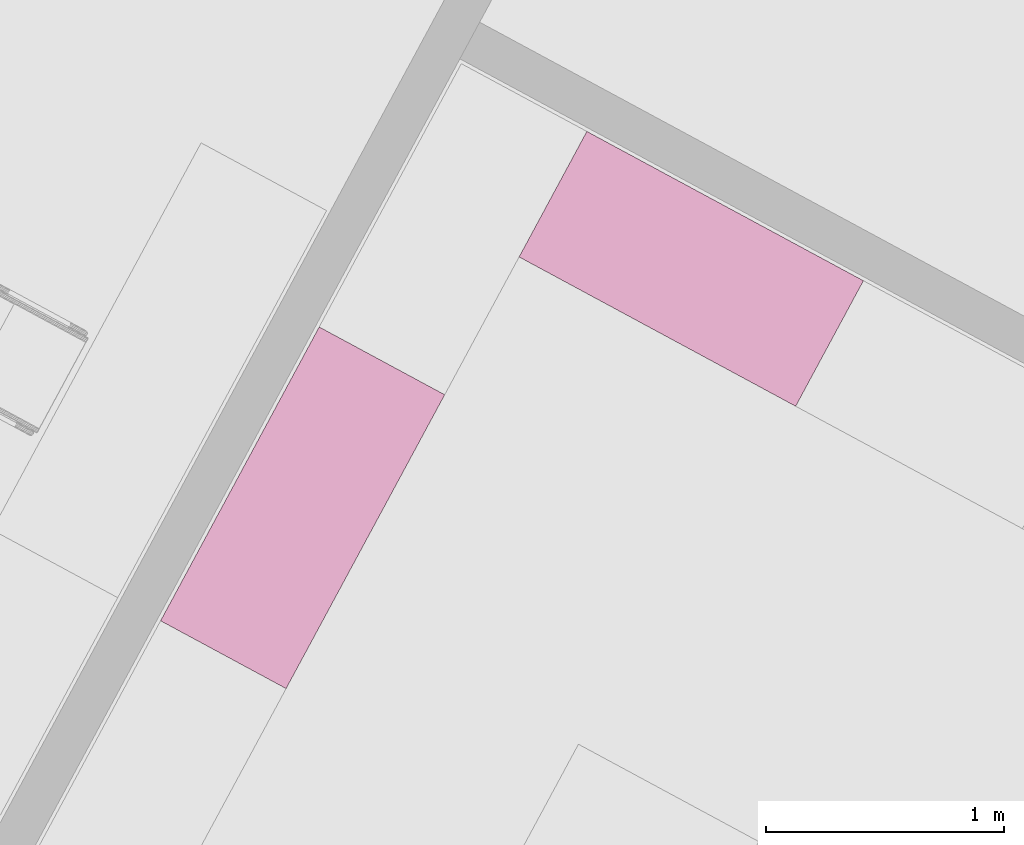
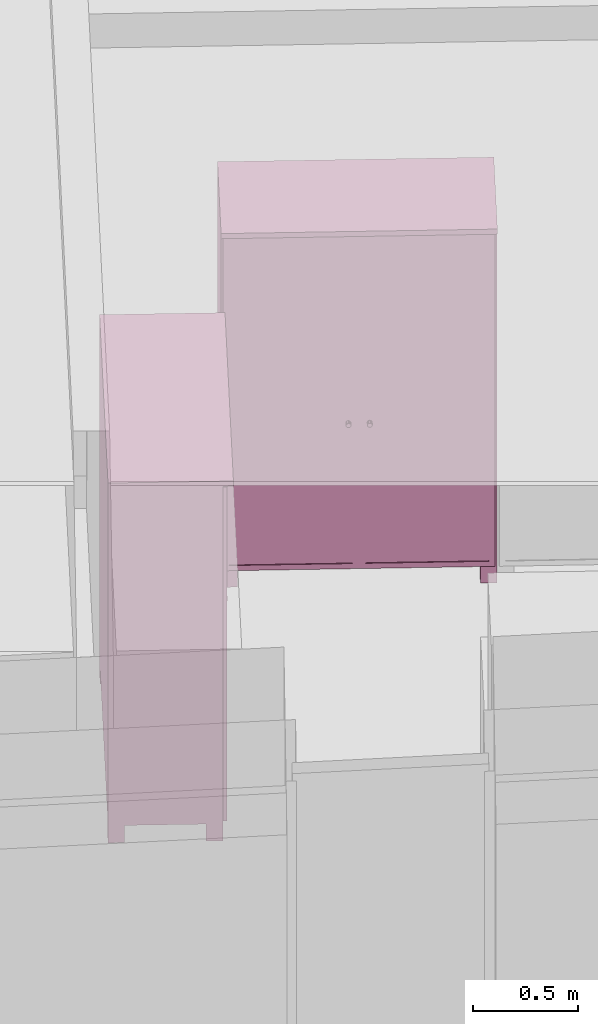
# One storey, part 30 of 48: 2 furnishings.
"""IFC2X3 building model written with IfcOpenShell, lengths in metres."""

from ifc_helpers import new_model, entity, si_unit, converted_unit, derived_unit, money_unit, direction, frame, origin_with_axes, place, context, subcontext, project, spatial, faceted_brep, type_object, element, save


model = new_model("IFC2X3")

# Units and contexts
model_context = context("Model", 3, precision=1e-05, world=origin_with_axes(), true_north=direction((0.0, 1.0)))
body_context = subcontext(model_context, "Body", "Model", "MODEL_VIEW")
ifc_project = project(units=[si_unit("LENGTHUNIT", "METRE"), si_unit("AREAUNIT", "SQUARE_METRE"), si_unit("VOLUMEUNIT", "CUBIC_METRE"), converted_unit("PLANEANGLEUNIT", "DEGREE", entity("IfcPlaneAngleMeasure", 0.0174532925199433), si_unit("PLANEANGLEUNIT", "RADIAN"), dimensions=[0, 0, 0, 0, 0, 0, 0]), money_unit("EUR"), converted_unit("TIMEUNIT", "Year", entity("IfcTimeMeasure", 31556926.0), si_unit("TIMEUNIT", "SECOND"), dimensions=[0, 0, 1, 0, 0, 0, 0]), si_unit("MASSUNIT", "GRAM", prefix="KILO"), si_unit("THERMODYNAMICTEMPERATUREUNIT", "DEGREE_CELSIUS"), si_unit("LUMINOUSINTENSITYUNIT", "LUMEN"), si_unit("ENERGYUNIT", "JOULE", prefix="MEGA"), derived_unit("THERMALCONDUCTANCEUNIT", [(si_unit("POWERUNIT", "WATT"), 1), (si_unit("LENGTHUNIT", "METRE"), -1), (si_unit("THERMODYNAMICTEMPERATUREUNIT", "KELVIN"), -1)]), derived_unit("SPECIFICHEATCAPACITYUNIT", [(si_unit("ENERGYUNIT", "JOULE"), 1), (si_unit("MASSUNIT", "GRAM", prefix="KILO"), -1), (si_unit("THERMODYNAMICTEMPERATUREUNIT", "KELVIN"), -1)]), derived_unit("MASSDENSITYUNIT", [(si_unit("MASSUNIT", "GRAM", prefix="KILO"), 1), (si_unit("VOLUMEUNIT", "CUBIC_METRE"), -1)])], contexts=[model_context])

# Site, building, storey
site_placement = place(None, frame((-3.949935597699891, 1.740105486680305, 0.0), z_axis=(0.0, 0.0, 1.0), x_axis=(0.8799804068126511, -0.475009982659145, 0.0)))
site = spatial("IfcSite", under=ifc_project, at=site_placement, Name="Gelände", CompositionType="ELEMENT")
building_placement = place(site_placement, origin_with_axes())
building = spatial("IfcBuilding", under=site, at=building_placement, Name="Gebäude", CompositionType="ELEMENT")
storey_placement = place(building_placement, frame((0.0, 0.0, 4.55), z_axis=(0.0, 0.0, 1.0), x_axis=(1.0, 0.0, 0.0)))
storey = spatial("IfcBuildingStorey", under=building, at=storey_placement, Name="Staffelgeschoss", CompositionType="ELEMENT", Elevation=4.55)

# Furnishings
furnishing_element_type = type_object("IfcFurnishingElementType", Name="Kleiderschrank 22")
furnishing_1_placement = place(storey_placement, frame((12.22319561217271, 4.444526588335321, 0.0), z_axis=(0.0, 0.0, 1.0), x_axis=(0.0, 1.0, 0.0)))
element("IfcFurnishingElement", 1, at=furnishing_1_placement, inside=storey, type_object=furnishing_element_type, Name="Objekt-0066", context=body_context, shape_type="Brep", body=[
    faceted_brep([(-0.02000000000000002, 0.6000000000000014, 0.12), (-0.02000000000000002, 0.6000000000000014, 2.05), (-0.02000000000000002, 0.5800000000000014, 2.05), (-0.02000000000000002, 0.5800000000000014, 0.12), (-1.384539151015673, 0.6000000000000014, 0.12), (-1.384539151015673, 0.6000000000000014, 2.05), (-1.384539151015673, 0.5800000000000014, 2.05), (-1.384539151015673, 0.5800000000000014, 0.12)], [[[0, 1, 2, 3]], [[4, 5, 1, 0]], [[1, 5, 6, 2]], [[3, 2, 6, 7]], [[0, 3, 7, 4]], [[7, 6, 5, 4]]]),
    faceted_brep([(-1.404539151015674, 0.05000000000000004, 0.1), (-1.404539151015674, 0.6000000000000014, 0.1), (-1.384539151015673, 0.6000000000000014, 0.1), (-1.384539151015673, 0.05000000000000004, 0.1), (-1.404539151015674, 0.05000000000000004, 2.07), (-1.404539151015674, 0.6000000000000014, 2.07), (-1.384539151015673, 0.6000000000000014, 2.07), (-1.384539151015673, 0.05000000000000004, 2.07)], [[[0, 1, 2, 3]], [[0, 4, 5, 1]], [[1, 5, 6, 2]], [[2, 6, 7, 3]], [[3, 7, 4, 0]], [[7, 6, 5, 4]]]),
    faceted_brep([(-0.02, 0.05000000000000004, 0.1), (-0.02, 0.6000000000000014, 0.1), (0.0, 0.6000000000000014, 0.1), (0.0, 0.05000000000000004, 0.1), (-0.02, 0.05000000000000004, 2.07), (-0.02, 0.6000000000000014, 2.07), (0.0, 0.6000000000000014, 2.07), (0.0, 0.05000000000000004, 2.07)], [[[0, 1, 2, 3]], [[0, 4, 5, 1]], [[1, 5, 6, 2]], [[2, 6, 7, 3]], [[3, 7, 4, 0]], [[7, 6, 5, 4]]]),
    faceted_brep([(-1.384539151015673, 0.05000000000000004, 0.1), (-1.384539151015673, 0.6000000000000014, 0.1), (-0.02000000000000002, 0.6000000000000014, 0.1), (-0.02000000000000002, 0.05000000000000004, 0.1), (-1.384539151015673, 0.05000000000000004, 0.12), (-1.384539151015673, 0.6000000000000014, 0.12), (-0.02000000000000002, 0.6000000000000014, 0.12), (-0.02000000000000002, 0.05000000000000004, 0.12)], [[[0, 1, 2, 3]], [[0, 4, 5, 1]], [[1, 5, 6, 2]], [[2, 6, 7, 3]], [[3, 7, 4, 0]], [[7, 6, 5, 4]]]),
    faceted_brep([(-1.384539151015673, 0.05000000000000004, 2.05), (-1.384539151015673, 0.6000000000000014, 2.05), (-0.02000000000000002, 0.6000000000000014, 2.05), (-0.02000000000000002, 0.05000000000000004, 2.05), (-1.384539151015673, 0.05000000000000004, 2.07), (-1.384539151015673, 0.6000000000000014, 2.07), (-0.02000000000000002, 0.6000000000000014, 2.07), (-0.02000000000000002, 0.05000000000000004, 2.07)], [[[0, 1, 2, 3]], [[0, 4, 5, 1]], [[1, 5, 6, 2]], [[2, 6, 7, 3]], [[3, 7, 4, 0]], [[7, 6, 5, 4]]]),
    faceted_brep([(-1.404539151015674, 0.6000000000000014, 2.07), (-1.404539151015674, 0.0, 2.07), (-1.404539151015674, 0.0, 2.1), (-1.404539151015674, 0.6000000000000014, 2.1), (0.0, 0.6000000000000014, 2.07), (0.0, 0.0, 2.07), (0.0, 0.0, 2.1), (0.0, 0.6000000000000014, 2.1)], [[[0, 1, 2, 3]], [[0, 4, 5, 1]], [[1, 5, 6, 2]], [[3, 2, 6, 7]], [[4, 0, 3, 7]], [[5, 4, 7, 6]]]),
    faceted_brep([(-0.08000000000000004, 0.5200000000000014, 0.0), (-0.08000000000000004, 0.5200000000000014, 0.1), (-0.08000000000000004, 0.6000000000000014, 0.1), (-0.08000000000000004, 0.6000000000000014, 0.0), (0.0, 0.5200000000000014, 0.0), (0.0, 0.5200000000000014, 0.1), (0.0, 0.6000000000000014, 0.1), (0.0, 0.6000000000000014, 0.0)], [[[0, 1, 2, 3]], [[4, 5, 1, 0]], [[1, 5, 6, 2]], [[3, 2, 6, 7]], [[0, 3, 7, 4]], [[7, 6, 5, 4]]]),
    faceted_brep([(-1.404539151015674, 0.5200000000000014, 0.0), (-1.404539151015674, 0.5200000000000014, 0.1), (-1.404539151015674, 0.6000000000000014, 0.1), (-1.404539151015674, 0.6000000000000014, 0.0), (-1.324539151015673, 0.5200000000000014, 0.0), (-1.324539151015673, 0.5200000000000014, 0.1), (-1.324539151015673, 0.6000000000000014, 0.1), (-1.324539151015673, 0.6000000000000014, 0.0)], [[[0, 1, 2, 3]], [[4, 5, 1, 0]], [[1, 5, 6, 2]], [[3, 2, 6, 7]], [[0, 3, 7, 4]], [[7, 6, 5, 4]]]),
    faceted_brep([(-0.08000000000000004, 0.05000000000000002, 0.0), (-0.08000000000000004, 0.05000000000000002, 0.1), (-0.08000000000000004, 0.13, 0.1), (-0.08000000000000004, 0.13, 0.0), (0.0, 0.05000000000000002, 0.0), (0.0, 0.05000000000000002, 0.1), (0.0, 0.13, 0.1), (0.0, 0.13, 0.0)], [[[0, 1, 2, 3]], [[4, 5, 1, 0]], [[1, 5, 6, 2]], [[3, 2, 6, 7]], [[0, 3, 7, 4]], [[7, 6, 5, 4]]]),
    faceted_brep([(-1.404539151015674, 0.05000000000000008, 0.0), (-1.404539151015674, 0.05000000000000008, 0.1), (-1.404539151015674, 0.1300000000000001, 0.1), (-1.404539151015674, 0.1300000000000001, 0.0), (-1.324539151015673, 0.05000000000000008, 0.0), (-1.324539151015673, 0.05000000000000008, 0.1), (-1.324539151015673, 0.1300000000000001, 0.1), (-1.324539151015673, 0.1300000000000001, 0.0)], [[[0, 1, 2, 3]], [[4, 5, 1, 0]], [[1, 5, 6, 2]], [[3, 2, 6, 7]], [[0, 3, 7, 4]], [[7, 6, 5, 4]]]),
    faceted_brep([(-0.7017695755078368, 0.05, 0.1104999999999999), (-0.7017695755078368, 0.03, 0.1104999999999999), (-0.7017695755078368, 0.03000000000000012, 2.0595), (-0.7017695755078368, 0.05000000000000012, 2.0595), (-0.6717695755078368, 0.05, 0.1405), (-0.6717695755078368, 0.03000000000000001, 0.1405), (-0.6717695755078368, 0.03000000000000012, 2.0295), (-0.6717695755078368, 0.05000000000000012, 2.0295)], [[[0, 1, 2, 3]], [[4, 5, 1, 0]], [[1, 5, 6, 2]], [[3, 2, 6, 7]], [[0, 3, 7, 4]], [[7, 6, 5, 4]]]),
    faceted_brep([(-0.04049999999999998, 0.05, 0.1405), (-0.04049999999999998, 0.03000000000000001, 0.1405), (-0.04049999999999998, 0.03000000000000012, 2.0295), (-0.04049999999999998, 0.05000000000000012, 2.0295), (-0.01050000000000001, 0.05, 0.1104999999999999), (-0.01050000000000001, 0.03, 0.1104999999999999), (-0.01050000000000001, 0.03000000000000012, 2.0595), (-0.01050000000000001, 0.05000000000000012, 2.0595)], [[[0, 1, 2, 3]], [[4, 5, 1, 0]], [[1, 5, 6, 2]], [[3, 2, 6, 7]], [[0, 3, 7, 4]], [[7, 6, 5, 4]]]),
    faceted_brep([(-0.01050000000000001, 0.05, 0.1104999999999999), (-0.01050000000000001, 0.03, 0.1104999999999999), (-0.7017695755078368, 0.03, 0.1104999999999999), (-0.7017695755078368, 0.05, 0.1104999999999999), (-0.04049999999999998, 0.05, 0.1405), (-0.04049999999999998, 0.03000000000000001, 0.1405), (-0.6717695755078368, 0.03000000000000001, 0.1405), (-0.6717695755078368, 0.05, 0.1405)], [[[0, 1, 2, 3]], [[4, 5, 1, 0]], [[1, 5, 6, 2]], [[3, 2, 6, 7]], [[0, 3, 7, 4]], [[7, 6, 5, 4]]]),
    faceted_brep([(-0.04049999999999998, 0.05000000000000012, 2.0295), (-0.04049999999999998, 0.03000000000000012, 2.0295), (-0.6717695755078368, 0.03000000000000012, 2.0295), (-0.6717695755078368, 0.05000000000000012, 2.0295), (-0.01050000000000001, 0.05000000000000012, 2.0595), (-0.01050000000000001, 0.03000000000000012, 2.0595), (-0.7017695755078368, 0.03000000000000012, 2.0595), (-0.7017695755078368, 0.05000000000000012, 2.0595)], [[[0, 1, 2, 3]], [[4, 5, 1, 0]], [[1, 5, 6, 2]], [[3, 2, 6, 7]], [[0, 3, 7, 4]], [[7, 6, 5, 4]]]),
    faceted_brep([(-0.6717695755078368, 0.04500000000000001, 0.1405), (-0.6717695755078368, 0.035, 0.1405), (-0.6717695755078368, 0.03500000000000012, 2.0295), (-0.6717695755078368, 0.04500000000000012, 2.0295), (-0.04049999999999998, 0.04500000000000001, 0.1405), (-0.04049999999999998, 0.035, 0.1405), (-0.04049999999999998, 0.03500000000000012, 2.0295), (-0.04049999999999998, 0.04500000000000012, 2.0295)], [[[0, 1, 2, 3]], [[4, 5, 1, 0]], [[1, 5, 6, 2]], [[3, 2, 6, 7]], [[0, 3, 7, 4]], [[7, 6, 5, 4]]]),
    faceted_brep([(-0.6616618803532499, 0.035, 0.954), (-0.6632695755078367, 0.035, 0.96), (-0.66166188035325, 0.035, 0.966), (-0.6572695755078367, 0.035, 0.9703923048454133), (-0.6512695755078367, 0.035, 0.972), (-0.6452695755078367, 0.035, 0.9703923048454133), (-0.6408772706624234, 0.035, 0.966), (-0.6392695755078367, 0.035, 0.96), (-0.6408772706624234, 0.035, 0.954), (-0.6452695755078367, 0.035, 0.9496076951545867), (-0.6512695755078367, 0.035, 0.948), (-0.6572695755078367, 0.035, 0.9496076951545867), (-0.6616618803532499, 0.01, 0.954), (-0.6632695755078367, 0.01, 0.96), (-0.66166188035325, 0.01, 0.966), (-0.6572695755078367, 0.01, 0.9703923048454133), (-0.6512695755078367, 0.01, 0.972), (-0.6452695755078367, 0.01, 0.9703923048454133), (-0.6408772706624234, 0.01, 0.966), (-0.6392695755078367, 0.01, 0.96), (-0.6408772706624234, 0.01, 0.954), (-0.6452695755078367, 0.01, 0.9496076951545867), (-0.6512695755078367, 0.01, 0.948), (-0.6572695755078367, 0.01, 0.9496076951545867)], [[[0, 1, 2, 3, 4, 5, 6, 7, 8, 9, 10, 11]], [[0, 12, 13, 1]], [[1, 13, 14, 2]], [[2, 14, 15, 3]], [[3, 15, 16, 4]], [[4, 16, 17, 5]], [[5, 17, 18, 6]], [[6, 18, 19, 7]], [[7, 19, 20, 8]], [[8, 20, 21, 9]], [[9, 21, 22, 10]], [[10, 22, 23, 11]], [[11, 23, 12, 0]], [[12, 23, 22, 21, 20, 19, 18, 17, 16, 15, 14, 13]]]),
    faceted_brep([(-1.395039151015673, 0.05, 0.1104999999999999), (-1.395039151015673, 0.03, 0.1104999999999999), (-1.395039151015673, 0.03000000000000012, 2.0595), (-1.395039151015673, 0.05000000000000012, 2.0595), (-1.365039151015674, 0.05, 0.1405), (-1.365039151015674, 0.03000000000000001, 0.1405), (-1.365039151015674, 0.03000000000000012, 2.0295), (-1.365039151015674, 0.05000000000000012, 2.0295)], [[[0, 1, 2, 3]], [[4, 5, 1, 0]], [[1, 5, 6, 2]], [[3, 2, 6, 7]], [[0, 3, 7, 4]], [[7, 6, 5, 4]]]),
    faceted_brep([(-0.7337695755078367, 0.05, 0.1405), (-0.7337695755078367, 0.03000000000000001, 0.1405), (-0.7337695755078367, 0.03000000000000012, 2.0295), (-0.7337695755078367, 0.05000000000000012, 2.0295), (-0.7037695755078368, 0.05, 0.1104999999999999), (-0.7037695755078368, 0.03, 0.1104999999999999), (-0.7037695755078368, 0.03000000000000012, 2.0595), (-0.7037695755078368, 0.05000000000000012, 2.0595)], [[[0, 1, 2, 3]], [[4, 5, 1, 0]], [[1, 5, 6, 2]], [[3, 2, 6, 7]], [[0, 3, 7, 4]], [[7, 6, 5, 4]]]),
    faceted_brep([(-0.7037695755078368, 0.05, 0.1104999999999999), (-0.7037695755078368, 0.03, 0.1104999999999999), (-1.395039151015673, 0.03, 0.1104999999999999), (-1.395039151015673, 0.05, 0.1104999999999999), (-0.7337695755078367, 0.05, 0.1405), (-0.7337695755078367, 0.03000000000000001, 0.1405), (-1.365039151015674, 0.03000000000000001, 0.1405), (-1.365039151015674, 0.05, 0.1405)], [[[0, 1, 2, 3]], [[4, 5, 1, 0]], [[1, 5, 6, 2]], [[3, 2, 6, 7]], [[0, 3, 7, 4]], [[7, 6, 5, 4]]]),
    faceted_brep([(-0.7337695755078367, 0.05000000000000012, 2.0295), (-0.7337695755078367, 0.03000000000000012, 2.0295), (-1.365039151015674, 0.03000000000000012, 2.0295), (-1.365039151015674, 0.05000000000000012, 2.0295), (-0.7037695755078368, 0.05000000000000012, 2.0595), (-0.7037695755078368, 0.03000000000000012, 2.0595), (-1.395039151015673, 0.03000000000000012, 2.0595), (-1.395039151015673, 0.05000000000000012, 2.0595)], [[[0, 1, 2, 3]], [[4, 5, 1, 0]], [[1, 5, 6, 2]], [[3, 2, 6, 7]], [[0, 3, 7, 4]], [[7, 6, 5, 4]]]),
    faceted_brep([(-1.365039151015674, 0.04500000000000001, 0.1405), (-1.365039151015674, 0.04000000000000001, 0.1405), (-1.365039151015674, 0.04000000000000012, 2.0295), (-1.365039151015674, 0.04500000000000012, 2.0295), (-0.7337695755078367, 0.04500000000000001, 0.1405), (-0.7337695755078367, 0.04000000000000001, 0.1405), (-0.7337695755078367, 0.04000000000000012, 2.0295), (-0.7337695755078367, 0.04500000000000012, 2.0295)], [[[0, 1, 2, 3]], [[4, 5, 1, 0]], [[1, 5, 6, 2]], [[3, 2, 6, 7]], [[0, 3, 7, 4]], [[7, 6, 5, 4]]]),
    faceted_brep([(-1.365039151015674, 0.04000000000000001, 0.1405), (-1.365039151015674, 0.03500000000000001, 0.1405), (-1.365039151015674, 0.03500000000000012, 2.0295), (-1.365039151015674, 0.04000000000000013, 2.0295), (-0.7337695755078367, 0.04000000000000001, 0.1405), (-0.7337695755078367, 0.03500000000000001, 0.1405), (-0.7337695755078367, 0.03500000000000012, 2.0295), (-0.7337695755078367, 0.04000000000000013, 2.0295)], [[[0, 1, 2, 3]], [[4, 5, 1, 0]], [[1, 5, 6, 2]], [[3, 2, 6, 7]], [[0, 3, 7, 4]], [[7, 6, 5, 4]]]),
    faceted_brep([(-0.7428772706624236, 0.035, 0.954), (-0.7472695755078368, 0.035, 0.9496076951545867), (-0.7532695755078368, 0.035, 0.948), (-0.7592695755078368, 0.035, 0.9496076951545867), (-0.7636618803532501, 0.035, 0.954), (-0.7652695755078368, 0.035, 0.96), (-0.7636618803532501, 0.035, 0.966), (-0.7592695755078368, 0.035, 0.9703923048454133), (-0.7532695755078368, 0.035, 0.972), (-0.7472695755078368, 0.035, 0.9703923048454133), (-0.7428772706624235, 0.035, 0.966), (-0.7412695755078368, 0.035, 0.96), (-0.7428772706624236, 0.01, 0.954), (-0.7472695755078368, 0.01, 0.9496076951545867), (-0.7532695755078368, 0.01, 0.948), (-0.7592695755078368, 0.01, 0.9496076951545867), (-0.7636618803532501, 0.01, 0.954), (-0.7652695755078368, 0.01, 0.96), (-0.7636618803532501, 0.01, 0.966), (-0.7592695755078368, 0.01, 0.9703923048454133), (-0.7532695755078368, 0.01, 0.972), (-0.7472695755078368, 0.01, 0.9703923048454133), (-0.7428772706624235, 0.01, 0.966), (-0.7412695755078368, 0.01, 0.96)], [[[0, 1, 2, 3, 4, 5, 6, 7, 8, 9, 10, 11]], [[1, 0, 12, 13]], [[2, 1, 13, 14]], [[3, 2, 14, 15]], [[4, 3, 15, 16]], [[5, 4, 16, 17]], [[6, 5, 17, 18]], [[7, 6, 18, 19]], [[8, 7, 19, 20]], [[9, 8, 20, 21]], [[10, 9, 21, 22]], [[11, 10, 22, 23]], [[0, 11, 23, 12]], [[12, 23, 22, 21, 20, 19, 18, 17, 16, 15, 14, 13]]]),
])
furnishing_2_placement = place(storey_placement, frame((13.545195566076, 5.103060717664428, 0.0), z_axis=(0.0, 0.0, 1.0), x_axis=(1.0, 0.0, 0.0)))
element("IfcFurnishingElement", 2, at=furnishing_2_placement, inside=storey, type_object=furnishing_element_type, Name="Objekt-0066", context=body_context, shape_type="Brep", body=[
    faceted_brep([(-0.02000000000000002, 0.5999999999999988, 0.12), (-0.02000000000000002, 0.5999999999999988, 2.05), (-0.02000000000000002, 0.5799999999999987, 2.05), (-0.02000000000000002, 0.5799999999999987, 0.12), (-1.301999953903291, 0.5999999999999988, 0.12), (-1.301999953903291, 0.5999999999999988, 2.05), (-1.301999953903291, 0.5799999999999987, 2.05), (-1.301999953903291, 0.5799999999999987, 0.12)], [[[0, 1, 2, 3]], [[4, 5, 1, 0]], [[1, 5, 6, 2]], [[3, 2, 6, 7]], [[0, 3, 7, 4]], [[7, 6, 5, 4]]]),
    faceted_brep([(-1.321999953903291, 0.05000000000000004, 0.1), (-1.321999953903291, 0.5999999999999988, 0.1), (-1.301999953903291, 0.5999999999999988, 0.1), (-1.301999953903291, 0.05000000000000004, 0.1), (-1.321999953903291, 0.05000000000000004, 2.07), (-1.321999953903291, 0.5999999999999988, 2.07), (-1.301999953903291, 0.5999999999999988, 2.07), (-1.301999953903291, 0.05000000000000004, 2.07)], [[[0, 1, 2, 3]], [[0, 4, 5, 1]], [[1, 5, 6, 2]], [[2, 6, 7, 3]], [[3, 7, 4, 0]], [[7, 6, 5, 4]]]),
    faceted_brep([(-0.02, 0.05000000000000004, 0.1), (-0.02, 0.5999999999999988, 0.1), (0.0, 0.5999999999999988, 0.1), (0.0, 0.05000000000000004, 0.1), (-0.02, 0.05000000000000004, 2.07), (-0.02, 0.5999999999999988, 2.07), (0.0, 0.5999999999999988, 2.07), (0.0, 0.05000000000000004, 2.07)], [[[0, 1, 2, 3]], [[0, 4, 5, 1]], [[1, 5, 6, 2]], [[2, 6, 7, 3]], [[3, 7, 4, 0]], [[7, 6, 5, 4]]]),
    faceted_brep([(-1.301999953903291, 0.05000000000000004, 0.1), (-1.301999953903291, 0.5999999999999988, 0.1), (-0.02000000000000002, 0.5999999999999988, 0.1), (-0.02000000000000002, 0.05000000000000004, 0.1), (-1.301999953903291, 0.05000000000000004, 0.12), (-1.301999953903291, 0.5999999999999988, 0.12), (-0.02000000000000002, 0.5999999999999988, 0.12), (-0.02000000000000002, 0.05000000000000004, 0.12)], [[[0, 1, 2, 3]], [[0, 4, 5, 1]], [[1, 5, 6, 2]], [[2, 6, 7, 3]], [[3, 7, 4, 0]], [[7, 6, 5, 4]]]),
    faceted_brep([(-1.301999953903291, 0.05000000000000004, 2.05), (-1.301999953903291, 0.5999999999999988, 2.05), (-0.02000000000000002, 0.5999999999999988, 2.05), (-0.02000000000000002, 0.05000000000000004, 2.05), (-1.301999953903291, 0.05000000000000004, 2.07), (-1.301999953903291, 0.5999999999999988, 2.07), (-0.02000000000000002, 0.5999999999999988, 2.07), (-0.02000000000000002, 0.05000000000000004, 2.07)], [[[0, 1, 2, 3]], [[0, 4, 5, 1]], [[1, 5, 6, 2]], [[2, 6, 7, 3]], [[3, 7, 4, 0]], [[7, 6, 5, 4]]]),
    faceted_brep([(-1.321999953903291, 0.5999999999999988, 2.07), (-1.321999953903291, 0.0, 2.07), (-1.321999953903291, 0.0, 2.1), (-1.321999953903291, 0.5999999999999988, 2.1), (0.0, 0.5999999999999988, 2.07), (0.0, 0.0, 2.07), (0.0, 0.0, 2.1), (0.0, 0.5999999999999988, 2.1)], [[[0, 1, 2, 3]], [[0, 4, 5, 1]], [[1, 5, 6, 2]], [[3, 2, 6, 7]], [[4, 0, 3, 7]], [[5, 4, 7, 6]]]),
    faceted_brep([(-0.08000000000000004, 0.5199999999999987, 0.0), (-0.08000000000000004, 0.5199999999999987, 0.1), (-0.08000000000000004, 0.5999999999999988, 0.1), (-0.08000000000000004, 0.5999999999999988, 0.0), (0.0, 0.5199999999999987, 0.0), (0.0, 0.5199999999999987, 0.1), (0.0, 0.5999999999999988, 0.1), (0.0, 0.5999999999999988, 0.0)], [[[0, 1, 2, 3]], [[4, 5, 1, 0]], [[1, 5, 6, 2]], [[3, 2, 6, 7]], [[0, 3, 7, 4]], [[7, 6, 5, 4]]]),
    faceted_brep([(-1.321999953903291, 0.5199999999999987, 0.0), (-1.321999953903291, 0.5199999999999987, 0.1), (-1.321999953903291, 0.5999999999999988, 0.1), (-1.321999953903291, 0.5999999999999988, 0.0), (-1.241999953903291, 0.5199999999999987, 0.0), (-1.241999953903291, 0.5199999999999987, 0.1), (-1.241999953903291, 0.5999999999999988, 0.1), (-1.241999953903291, 0.5999999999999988, 0.0)], [[[0, 1, 2, 3]], [[4, 5, 1, 0]], [[1, 5, 6, 2]], [[3, 2, 6, 7]], [[0, 3, 7, 4]], [[7, 6, 5, 4]]]),
    faceted_brep([(-0.08000000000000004, 0.05000000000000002, 0.0), (-0.08000000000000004, 0.05000000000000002, 0.1), (-0.08000000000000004, 0.13, 0.1), (-0.08000000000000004, 0.13, 0.0), (0.0, 0.05000000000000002, 0.0), (0.0, 0.05000000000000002, 0.1), (0.0, 0.13, 0.1), (0.0, 0.13, 0.0)], [[[0, 1, 2, 3]], [[4, 5, 1, 0]], [[1, 5, 6, 2]], [[3, 2, 6, 7]], [[0, 3, 7, 4]], [[7, 6, 5, 4]]]),
    faceted_brep([(-1.321999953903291, 0.05000000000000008, 0.0), (-1.321999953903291, 0.05000000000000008, 0.1), (-1.321999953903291, 0.1300000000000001, 0.1), (-1.321999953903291, 0.1300000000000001, 0.0), (-1.241999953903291, 0.05000000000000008, 0.0), (-1.241999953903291, 0.05000000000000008, 0.1), (-1.241999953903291, 0.1300000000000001, 0.1), (-1.241999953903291, 0.1300000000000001, 0.0)], [[[0, 1, 2, 3]], [[4, 5, 1, 0]], [[1, 5, 6, 2]], [[3, 2, 6, 7]], [[0, 3, 7, 4]], [[7, 6, 5, 4]]]),
    faceted_brep([(-0.6604999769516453, 0.05, 0.1104999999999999), (-0.6604999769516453, 0.03, 0.1104999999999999), (-0.6604999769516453, 0.03000000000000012, 2.0595), (-0.6604999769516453, 0.05000000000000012, 2.0595), (-0.6304999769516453, 0.05, 0.1405), (-0.6304999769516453, 0.03000000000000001, 0.1405), (-0.6304999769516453, 0.03000000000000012, 2.0295), (-0.6304999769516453, 0.05000000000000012, 2.0295)], [[[0, 1, 2, 3]], [[4, 5, 1, 0]], [[1, 5, 6, 2]], [[3, 2, 6, 7]], [[0, 3, 7, 4]], [[7, 6, 5, 4]]]),
    faceted_brep([(-0.04050000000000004, 0.05, 0.1405), (-0.04050000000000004, 0.03000000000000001, 0.1405), (-0.04050000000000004, 0.03000000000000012, 2.0295), (-0.04050000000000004, 0.05000000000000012, 2.0295), (-0.01050000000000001, 0.05, 0.1104999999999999), (-0.01050000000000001, 0.03, 0.1104999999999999), (-0.01050000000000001, 0.03000000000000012, 2.0595), (-0.01050000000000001, 0.05000000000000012, 2.0595)], [[[0, 1, 2, 3]], [[4, 5, 1, 0]], [[1, 5, 6, 2]], [[3, 2, 6, 7]], [[0, 3, 7, 4]], [[7, 6, 5, 4]]]),
    faceted_brep([(-0.01050000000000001, 0.05, 0.1104999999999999), (-0.01050000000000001, 0.03, 0.1104999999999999), (-0.6604999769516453, 0.03, 0.1104999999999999), (-0.6604999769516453, 0.05, 0.1104999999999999), (-0.04050000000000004, 0.05, 0.1405), (-0.04050000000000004, 0.03000000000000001, 0.1405), (-0.6304999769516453, 0.03000000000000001, 0.1405), (-0.6304999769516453, 0.05, 0.1405)], [[[0, 1, 2, 3]], [[4, 5, 1, 0]], [[1, 5, 6, 2]], [[3, 2, 6, 7]], [[0, 3, 7, 4]], [[7, 6, 5, 4]]]),
    faceted_brep([(-0.04050000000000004, 0.05000000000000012, 2.0295), (-0.04050000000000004, 0.03000000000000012, 2.0295), (-0.6304999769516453, 0.03000000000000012, 2.0295), (-0.6304999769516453, 0.05000000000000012, 2.0295), (-0.01050000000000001, 0.05000000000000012, 2.0595), (-0.01050000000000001, 0.03000000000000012, 2.0595), (-0.6604999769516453, 0.03000000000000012, 2.0595), (-0.6604999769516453, 0.05000000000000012, 2.0595)], [[[0, 1, 2, 3]], [[4, 5, 1, 0]], [[1, 5, 6, 2]], [[3, 2, 6, 7]], [[0, 3, 7, 4]], [[7, 6, 5, 4]]]),
    faceted_brep([(-0.6304999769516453, 0.04500000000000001, 0.1405), (-0.6304999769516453, 0.035, 0.1405), (-0.6304999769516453, 0.03500000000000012, 2.0295), (-0.6304999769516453, 0.04500000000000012, 2.0295), (-0.04050000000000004, 0.04500000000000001, 0.1405), (-0.04050000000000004, 0.035, 0.1405), (-0.04050000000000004, 0.03500000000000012, 2.0295), (-0.04050000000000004, 0.04500000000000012, 2.0295)], [[[0, 1, 2, 3]], [[4, 5, 1, 0]], [[1, 5, 6, 2]], [[3, 2, 6, 7]], [[0, 3, 7, 4]], [[7, 6, 5, 4]]]),
    faceted_brep([(-0.6203922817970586, 0.035, 0.954), (-0.6219999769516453, 0.035, 0.96), (-0.6203922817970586, 0.035, 0.966), (-0.6159999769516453, 0.035, 0.9703923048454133), (-0.6099999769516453, 0.035, 0.972), (-0.6039999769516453, 0.035, 0.9703923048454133), (-0.599607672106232, 0.035, 0.966), (-0.5979999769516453, 0.035, 0.96), (-0.599607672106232, 0.035, 0.954), (-0.6039999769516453, 0.035, 0.9496076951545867), (-0.6099999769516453, 0.035, 0.948), (-0.6159999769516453, 0.035, 0.9496076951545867), (-0.6203922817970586, 0.01, 0.954), (-0.6219999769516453, 0.01, 0.96), (-0.6203922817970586, 0.01, 0.966), (-0.6159999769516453, 0.01, 0.9703923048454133), (-0.6099999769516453, 0.01, 0.972), (-0.6039999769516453, 0.01, 0.9703923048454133), (-0.599607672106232, 0.01, 0.966), (-0.5979999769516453, 0.01, 0.96), (-0.599607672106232, 0.01, 0.954), (-0.6039999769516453, 0.01, 0.9496076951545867), (-0.6099999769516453, 0.01, 0.948), (-0.6159999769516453, 0.01, 0.9496076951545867)], [[[0, 1, 2, 3, 4, 5, 6, 7, 8, 9, 10, 11]], [[0, 12, 13, 1]], [[1, 13, 14, 2]], [[2, 14, 15, 3]], [[3, 15, 16, 4]], [[4, 16, 17, 5]], [[5, 17, 18, 6]], [[6, 18, 19, 7]], [[7, 19, 20, 8]], [[8, 20, 21, 9]], [[9, 21, 22, 10]], [[10, 22, 23, 11]], [[11, 23, 12, 0]], [[12, 23, 22, 21, 20, 19, 18, 17, 16, 15, 14, 13]]]),
    faceted_brep([(-1.312499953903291, 0.05, 0.1104999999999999), (-1.312499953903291, 0.03, 0.1104999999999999), (-1.312499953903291, 0.03000000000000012, 2.0595), (-1.312499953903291, 0.05000000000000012, 2.0595), (-1.282499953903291, 0.05, 0.1405), (-1.282499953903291, 0.03000000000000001, 0.1405), (-1.282499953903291, 0.03000000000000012, 2.0295), (-1.282499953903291, 0.05000000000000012, 2.0295)], [[[0, 1, 2, 3]], [[4, 5, 1, 0]], [[1, 5, 6, 2]], [[3, 2, 6, 7]], [[0, 3, 7, 4]], [[7, 6, 5, 4]]]),
    faceted_brep([(-0.6924999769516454, 0.05, 0.1405), (-0.6924999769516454, 0.03000000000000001, 0.1405), (-0.6924999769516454, 0.03000000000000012, 2.0295), (-0.6924999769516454, 0.05000000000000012, 2.0295), (-0.6624999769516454, 0.05, 0.1104999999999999), (-0.6624999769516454, 0.03, 0.1104999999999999), (-0.6624999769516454, 0.03000000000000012, 2.0595), (-0.6624999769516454, 0.05000000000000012, 2.0595)], [[[0, 1, 2, 3]], [[4, 5, 1, 0]], [[1, 5, 6, 2]], [[3, 2, 6, 7]], [[0, 3, 7, 4]], [[7, 6, 5, 4]]]),
    faceted_brep([(-0.6624999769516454, 0.05, 0.1104999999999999), (-0.6624999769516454, 0.03, 0.1104999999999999), (-1.312499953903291, 0.03, 0.1104999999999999), (-1.312499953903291, 0.05, 0.1104999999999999), (-0.6924999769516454, 0.05, 0.1405), (-0.6924999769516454, 0.03000000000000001, 0.1405), (-1.282499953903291, 0.03000000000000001, 0.1405), (-1.282499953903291, 0.05, 0.1405)], [[[0, 1, 2, 3]], [[4, 5, 1, 0]], [[1, 5, 6, 2]], [[3, 2, 6, 7]], [[0, 3, 7, 4]], [[7, 6, 5, 4]]]),
    faceted_brep([(-0.6924999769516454, 0.05000000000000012, 2.0295), (-0.6924999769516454, 0.03000000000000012, 2.0295), (-1.282499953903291, 0.03000000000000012, 2.0295), (-1.282499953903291, 0.05000000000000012, 2.0295), (-0.6624999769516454, 0.05000000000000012, 2.0595), (-0.6624999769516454, 0.03000000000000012, 2.0595), (-1.312499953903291, 0.03000000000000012, 2.0595), (-1.312499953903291, 0.05000000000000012, 2.0595)], [[[0, 1, 2, 3]], [[4, 5, 1, 0]], [[1, 5, 6, 2]], [[3, 2, 6, 7]], [[0, 3, 7, 4]], [[7, 6, 5, 4]]]),
    faceted_brep([(-1.282499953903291, 0.04500000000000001, 0.1405), (-1.282499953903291, 0.04000000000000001, 0.1405), (-1.282499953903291, 0.04000000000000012, 2.0295), (-1.282499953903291, 0.04500000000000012, 2.0295), (-0.6924999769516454, 0.04500000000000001, 0.1405), (-0.6924999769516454, 0.04000000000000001, 0.1405), (-0.6924999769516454, 0.04000000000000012, 2.0295), (-0.6924999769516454, 0.04500000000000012, 2.0295)], [[[0, 1, 2, 3]], [[4, 5, 1, 0]], [[1, 5, 6, 2]], [[3, 2, 6, 7]], [[0, 3, 7, 4]], [[7, 6, 5, 4]]]),
    faceted_brep([(-1.282499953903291, 0.04000000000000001, 0.1405), (-1.282499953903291, 0.03500000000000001, 0.1405), (-1.282499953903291, 0.03500000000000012, 2.0295), (-1.282499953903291, 0.04000000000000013, 2.0295), (-0.6924999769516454, 0.04000000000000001, 0.1405), (-0.6924999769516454, 0.03500000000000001, 0.1405), (-0.6924999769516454, 0.03500000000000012, 2.0295), (-0.6924999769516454, 0.04000000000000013, 2.0295)], [[[0, 1, 2, 3]], [[4, 5, 1, 0]], [[1, 5, 6, 2]], [[3, 2, 6, 7]], [[0, 3, 7, 4]], [[7, 6, 5, 4]]]),
    faceted_brep([(-0.7016076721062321, 0.035, 0.954), (-0.7059999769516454, 0.035, 0.9496076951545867), (-0.7119999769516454, 0.035, 0.948), (-0.7179999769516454, 0.035, 0.9496076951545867), (-0.7223922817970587, 0.035, 0.954), (-0.7239999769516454, 0.035, 0.96), (-0.7223922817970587, 0.035, 0.966), (-0.7179999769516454, 0.035, 0.9703923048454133), (-0.7119999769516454, 0.035, 0.972), (-0.7059999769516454, 0.035, 0.9703923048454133), (-0.7016076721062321, 0.035, 0.966), (-0.6999999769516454, 0.035, 0.96), (-0.7016076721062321, 0.01, 0.954), (-0.7059999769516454, 0.01, 0.9496076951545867), (-0.7119999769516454, 0.01, 0.948), (-0.7179999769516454, 0.01, 0.9496076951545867), (-0.7223922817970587, 0.01, 0.954), (-0.7239999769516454, 0.01, 0.96), (-0.7223922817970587, 0.01, 0.966), (-0.7179999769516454, 0.01, 0.9703923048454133), (-0.7119999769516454, 0.01, 0.972), (-0.7059999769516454, 0.01, 0.9703923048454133), (-0.7016076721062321, 0.01, 0.966), (-0.6999999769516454, 0.01, 0.96)], [[[0, 1, 2, 3, 4, 5, 6, 7, 8, 9, 10, 11]], [[1, 0, 12, 13]], [[2, 1, 13, 14]], [[3, 2, 14, 15]], [[4, 3, 15, 16]], [[5, 4, 16, 17]], [[6, 5, 17, 18]], [[7, 6, 18, 19]], [[8, 7, 19, 20]], [[9, 8, 20, 21]], [[10, 9, 21, 22]], [[11, 10, 22, 23]], [[0, 11, 23, 12]], [[12, 23, 22, 21, 20, 19, 18, 17, 16, 15, 14, 13]]]),
])

save(model, "model.ifc")
